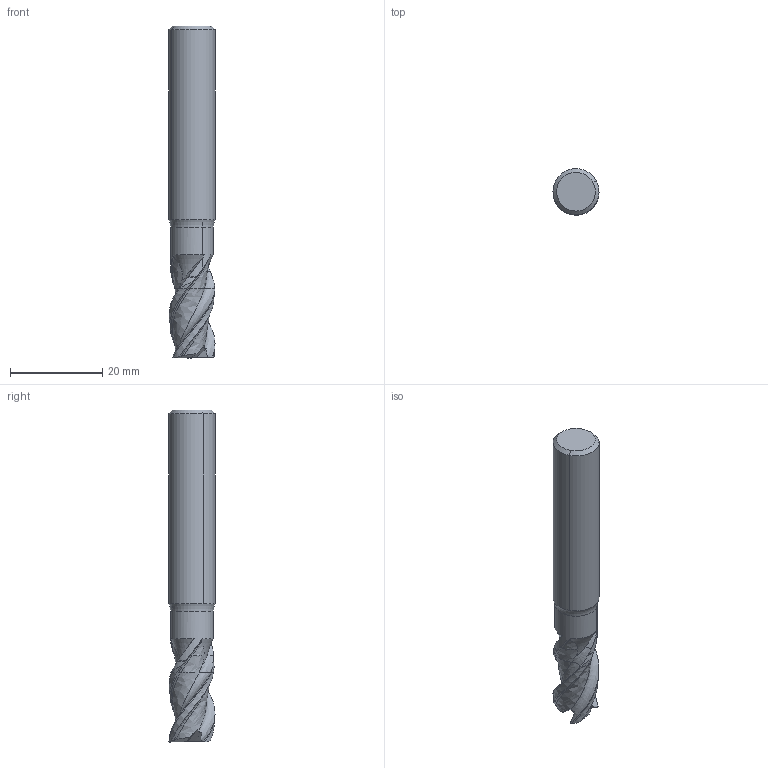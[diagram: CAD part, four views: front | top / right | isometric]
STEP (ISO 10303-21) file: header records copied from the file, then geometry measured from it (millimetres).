
FILE_DESCRIPTION(('CATIA V5 STEP','CAx-IF Rec.Pracs.--- Model Styling and Organization---1.2---2011-12-15'),'2;1');
FILE_NAME('I:\isr\design\admin8\users\weaam_s\5622782D.stp','2018-10-28T06:18:55+00:00',('none'),('none'),'CATIA Version 5 Release 21 SP 5 (IN-10)','CATIA V5 STEP AP214','none');
FILE_SCHEMA(('AUTOMOTIVE_DESIGN { 1 0 10303 214 1 1 1 1 }'));
Length unit declared in the file: millimetre
Products named in the file (1): ECA-H3 10-15/30C10CF-R02
Bounding box: 10 x 10 x 72 mm (x, y, z)
Volume: 4877.8 mm3; surface area: 2436.9 mm2
Topology: 2 solids, 2 shells, 94 faces, 265 edges, 175 vertices
Faces by surface type: bspline 48, plane 18, torus 14, cone 9, cylinder 5
Entity records: 4694 total; most frequent: CARTESIAN_POINT 2795, ORIENTED_EDGE 518, EDGE_CURVE 259, VERTEX_POINT 169, B_SPLINE_CURVE_WITH_KNOTS 166, DIRECTION 147, ADVANCED_FACE 94, EDGE_LOOP 94
